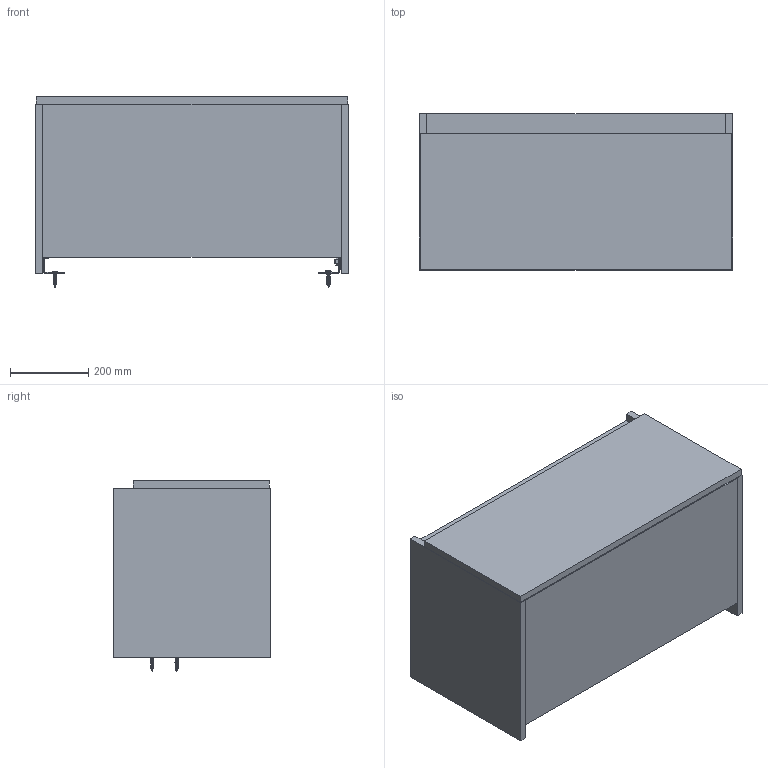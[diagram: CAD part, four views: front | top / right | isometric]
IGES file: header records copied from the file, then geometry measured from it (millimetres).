
Global section: file name: 3D Dosyası,; native system: Autodesk Inventor 2024; preprocessor: unknown; author: pc11; date: 20250708.163448; units: millimetre
Bounding box: 800 x 400 x 485.7 mm (x, y, z)
Volume: 22750152.9 mm3; surface area: 3543529.8 mm2
Topology: 33 solids, 37 shells, 2633 faces, 6768 edges, 4197 vertices
Faces by surface type: bspline 2633
